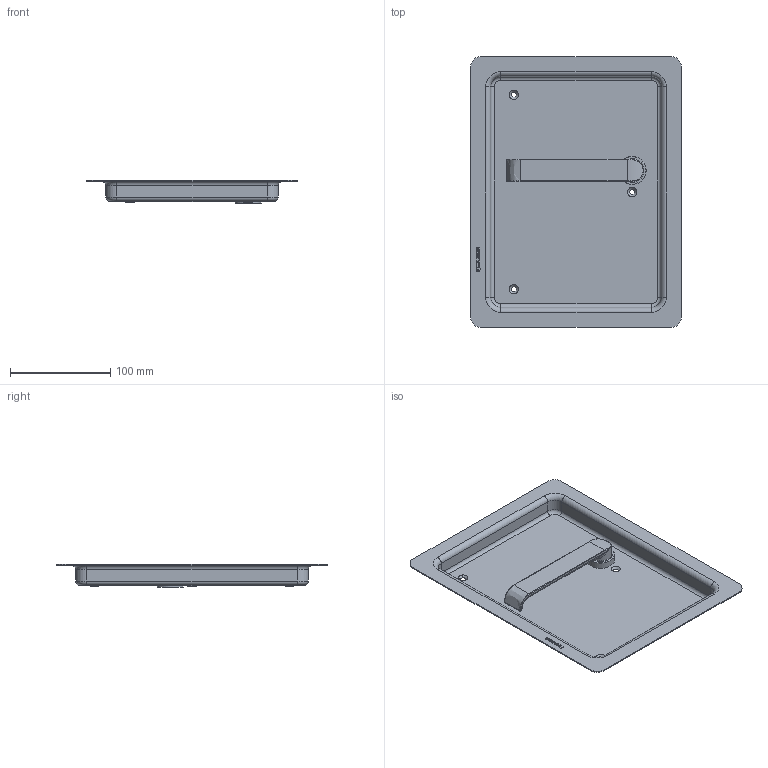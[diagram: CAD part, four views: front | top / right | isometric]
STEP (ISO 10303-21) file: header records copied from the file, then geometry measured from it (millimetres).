
FILE_DESCRIPTION(/* description */ (''),/* implementation_level */ '2;1');
FILE_NAME(/* name */ 'C:\ADSK_DMS_WS\Designs\Vorschläge\Loc Schalen\Muschel Serie 6\S6.20.D1Links\Heusser-Muschel S6.20.D1.0L.stp',/* time_stamp */ '2020-10-14T15:13:30+02:00',/* author */ ('gm'),/* organization */ (''),/* preprocessor_version */ 'ST-DEVELOPER v16.5',/* originating_system */ 'Autodesk Inventor 2017',/* authorisation */ '');
FILE_SCHEMA (('AUTOMOTIVE_DESIGN { 1 0 10303 214 3 1 1 }'));
Length unit declared in the file: millimetre
Products named in the file (1): S6.20.D1.0L
Bounding box: 210 x 270 x 23 mm (x, y, z)
Volume: 90753.4 mm3; surface area: 150129.5 mm2
Topology: 1 solids, 2 shells, 302 faces, 757 edges, 480 vertices
Faces by surface type: plane 130, bspline 78, cylinder 59, torus 19, cone 16
Full cylindrical faces by diameter (mm): 1.7 x2, 6 x1, 14.2 x1, 16 x3, 18 x1, 19 x1, 19.1 x1, 22 x1, 23 x1, 23.2 x1, 24 x1, 25 x1, 26 x1, 28 x1
Entity records: 10086 total; most frequent: CARTESIAN_POINT 2986, ORIENTED_EDGE 1424, DIRECTION 1254, EDGE_CURVE 712, VERTEX_POINT 472, AXIS2_PLACEMENT_3D 431, LINE 392, VECTOR 392
